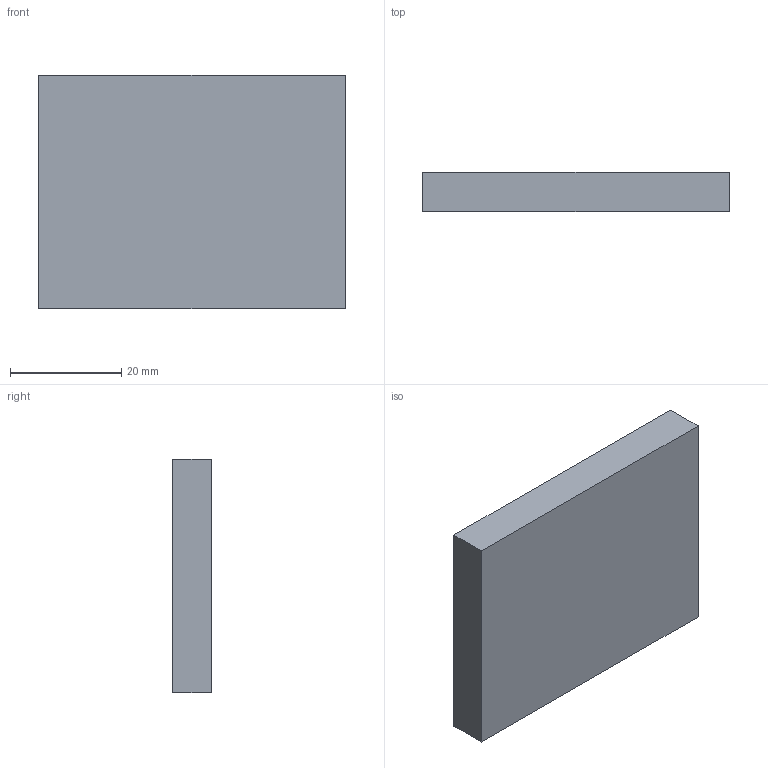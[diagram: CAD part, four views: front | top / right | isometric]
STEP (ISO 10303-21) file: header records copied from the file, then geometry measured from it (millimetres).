
FILE_DESCRIPTION(('Open CASCADE Model'),'2;1');
FILE_NAME('Open CASCADE Shape Model','2026-09-19T23:46:41',('Author'),( 'Open CASCADE'),'Open CASCADE STEP processor 7.9','Open CASCADE 7.9' ,'Unknown');
FILE_SCHEMA(('AUTOMOTIVE_DESIGN { 1 0 10303 214 1 1 1 1 }'));
Length unit declared in the file: millimetre
Products named in the file (1): Open CASCADE STEP translator 7.9 104
Bounding box: 55 x 7 x 42 mm (x, y, z)
Volume: 16170 mm3; surface area: 5978 mm2
Topology: 1 solids, 1 shells, 6 faces, 12 edges, 8 vertices
Faces by surface type: plane 6
Entity records: 322 total; most frequent: CARTESIAN_POINT 51, DIRECTION 50, LINE 36, VECTOR 36, ORIENTED_EDGE 24, PCURVE 24, DEFINITIONAL_REPRESENTATION 24, EDGE_CURVE 12
